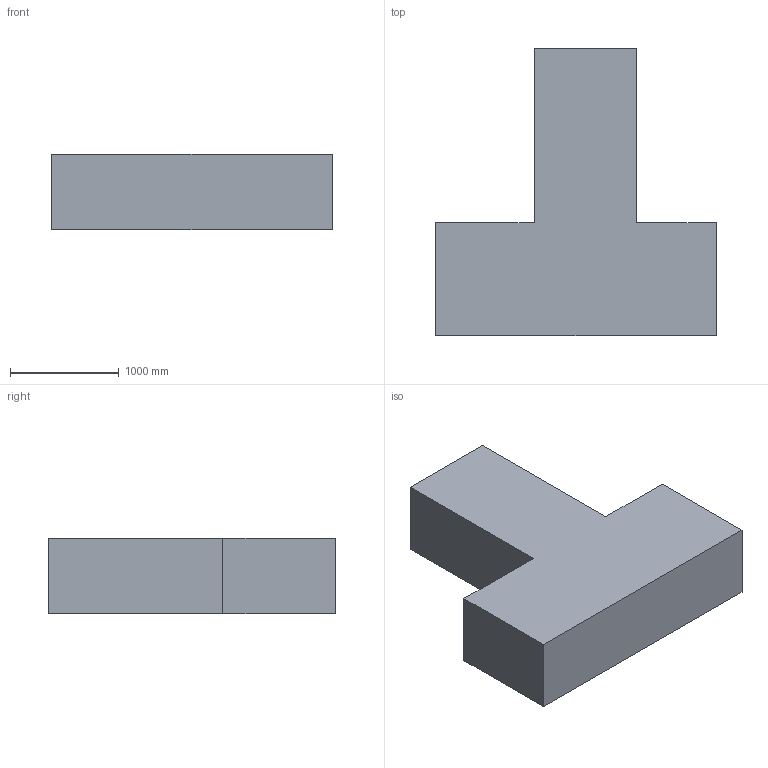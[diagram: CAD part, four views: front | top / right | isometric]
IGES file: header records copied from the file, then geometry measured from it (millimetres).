
Start section: This line is the first line of the start section. You can replacexxxxxxy these line and add as many as you want
Global section: file name: /usr2/plg/parts/_bcd/bati.iges; native system: COMPUTERVISION CADDS5 REV 5.0 GRAPHIC SYSTEM; preprocessor: CV Translator Products, Revision 1.1.3 PATCH; author: Author; organization: Organization; date: 950612.132741; units: millimetre
Bounding box: 2585.03 x 2648.43 x 700 mm (x, y, z)
Surface area: 15744114.5 mm2 (no closed solid volume)
Topology: 0 solids, 0 shells, 10 faces, 48 edges, 48 vertices
Faces by surface type: bspline 10
